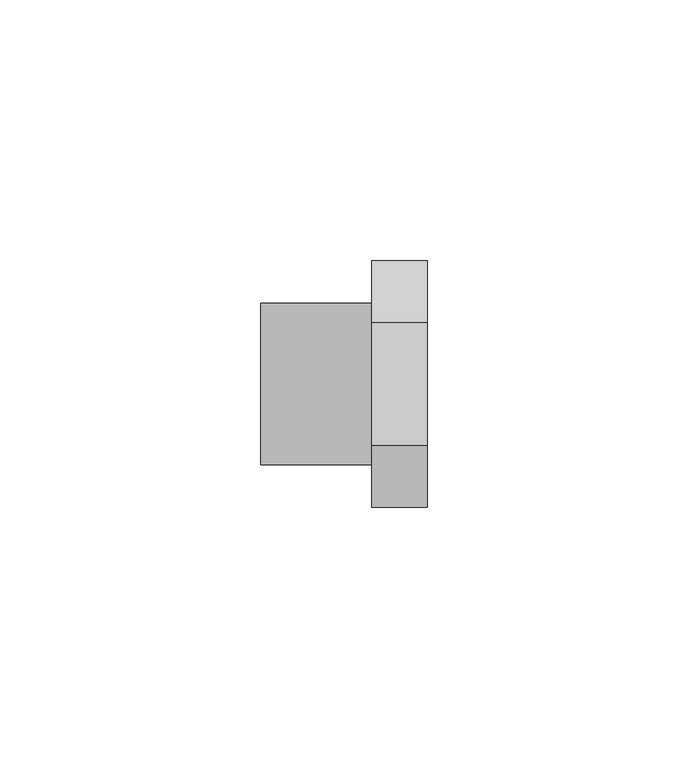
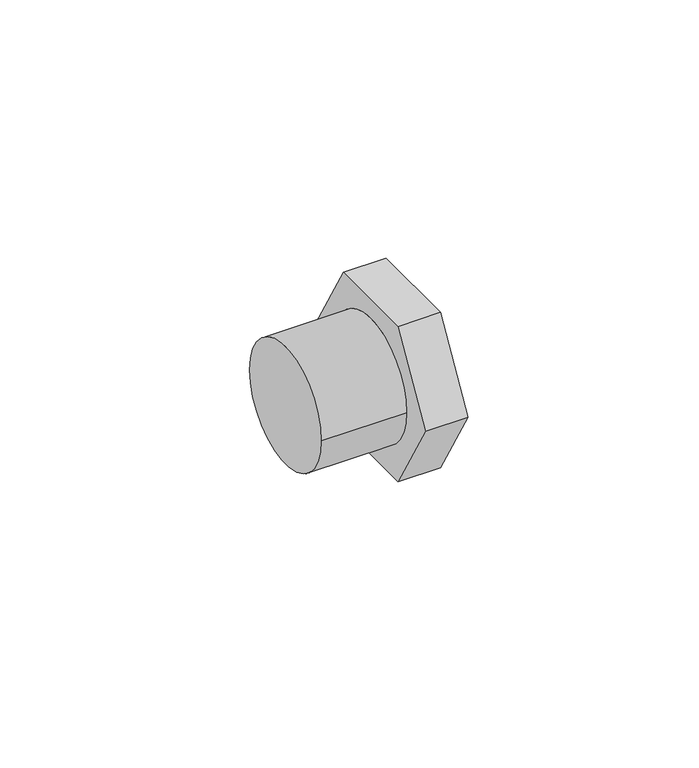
"""IFC4 building model written with IfcOpenShell, lengths in millimetres: pipe fitting geometry, 01011011 : Bouchons M."""

import ifcopenshell
import ifcopenshell.guid

model = None  # the IFC model being written
_history = None  # IfcOwnerHistory: only IFC2X3 demands one
_inside = {}  # id of a spatial element -> (the spatial element, [elements in it])
_under = {}  # id of a project, library or spatial element -> (it, [spatial elements below it])
_declared = {}  # id of a project -> (the project, [libraries it declares])
_typed = {}  # id of a type object -> (the type object, [elements of that type])
_made_of = {}  # id of a material, layer set ... -> (it, [elements and type objects made of it])


def new_model(schema):
    """Start an empty IFC model of exactly this schema.

    Asked for "IFC4X3", IfcOpenShell would pick the latest addendum, in which some entities
    have other attributes; the version numbers below select the first issue.
    IFC2X3 requires an IfcOwnerHistory on every rooted entity: one is made here for all.
    """
    global model, _history
    if schema == "IFC4X3":
        model = ifcopenshell.file(schema_version=(4, 3, 0, 0))
    else:
        model = ifcopenshell.file(schema=schema)
    _inside.clear()
    _under.clear()
    _declared.clear()
    _typed.clear()
    _made_of.clear()
    _history = None
    if model.schema == "IFC2X3":
        org = make("IfcOrganization", Name="unknown")
        user = make(
            "IfcPersonAndOrganization",
            ThePerson=make("IfcPerson", FamilyName="unknown"),
            TheOrganization=org,
        )
        app = make(
            "IfcApplication",
            ApplicationDeveloper=org,
            Version="unknown",
            ApplicationFullName="unknown",
            ApplicationIdentifier="unknown",
        )
        _history = make(
            "IfcOwnerHistory",
            OwningUser=user,
            OwningApplication=app,
            ChangeAction="ADDED",
            CreationDate=0,
        )
    return model


def make(cls, **values):
    """One entity of the class cls with the attributes given. An attribute that is None is left unset."""
    return model.create_entity(
        cls, **{name: value for name, value in values.items() if value is not None}
    )


def rooted(cls, **values):
    """An entity with a GlobalId (a new one), such as an element, a storey or a relation."""
    return make(cls, GlobalId=ifcopenshell.guid.new(), OwnerHistory=_history, **values)


def si_unit(unit_type, name, prefix=None):
    """IfcSIUnit, for example si_unit("LENGTHUNIT", "METRE", prefix="MILLI")."""
    return make("IfcSIUnit", UnitType=unit_type, Prefix=prefix, Name=name)


def assignment(units):
    """IfcUnitAssignment: the units of a project."""
    return None if units is None else make("IfcUnitAssignment", Units=units)


def point(xyz):
    """IfcCartesianPoint."""
    return None if xyz is None else make("IfcCartesianPoint", Coordinates=xyz)


def direction(xyz):
    """IfcDirection."""
    return None if xyz is None else make("IfcDirection", DirectionRatios=xyz)


def frame(location, z_axis=None, x_axis=None):
    """IfcAxis2Placement3D, a coordinate frame: its origin and axes. An axis left out is left unset."""
    return make(
        "IfcAxis2Placement3D",
        Location=point(location),
        Axis=direction(z_axis),
        RefDirection=direction(x_axis),
    )


def frame_2d(location, x_axis=None):
    """IfcAxis2Placement2D, a coordinate frame in the plane: its origin and x axis."""
    return make(
        "IfcAxis2Placement2D", Location=point(location), RefDirection=direction(x_axis)
    )


def origin():
    """The frame at (0, 0, 0) with its axes left unset."""
    return frame((0.0, 0.0, 0.0))


def origin_2d():
    """The frame at (0, 0) in the plane with its x axis left unset."""
    return frame_2d((0.0, 0.0))


def place(relative_to, where):
    """IfcLocalPlacement: puts the frame where relative to a parent placement (None: the world)."""
    return make(
        "IfcLocalPlacement", PlacementRelTo=relative_to, RelativePlacement=where
    )


def context(
    kind, dimensions, precision=None, world=None, true_north=None, identifier=None
):
    """IfcGeometricRepresentationContext, for example the 3D "Model" context."""
    return make(
        "IfcGeometricRepresentationContext",
        ContextIdentifier=identifier,
        ContextType=kind,
        CoordinateSpaceDimension=dimensions,
        Precision=precision,
        WorldCoordinateSystem=world,
        TrueNorth=true_north,
    )


def project(units=None, contexts=None):
    """IfcProject with its units and contexts."""
    return rooted(
        "IfcProject",
        Name="project",
        RepresentationContexts=contexts,
        UnitsInContext=assignment(units),
    )


def spatial(cls, under=None, at=None, **own):
    """A site, building, storey or space (cls), placed at a placement, below another one or the project."""
    s = rooted(cls, ObjectPlacement=at, **own)
    if under is not None:
        _under.setdefault(under.id(), (under, []))[1].append(s)
    return s


def circle_curve(where, radius):
    """IfcCircle in the frame where."""
    return make("IfcCircle", Position=where, Radius=radius)


def trimmed(basis, trim1, trim2, sense, master):
    """IfcTrimmedCurve: the piece of a basis curve between two trims."""
    return make(
        "IfcTrimmedCurve",
        BasisCurve=basis,
        Trim1=trim1,
        Trim2=trim2,
        SenseAgreement=sense,
        MasterRepresentation=master,
    )


def segment(curve, same_sense, transition):
    """IfcCompositeCurveSegment."""
    return make(
        "IfcCompositeCurveSegment",
        Transition=transition,
        SameSense=same_sense,
        ParentCurve=curve,
    )


def composite_curve(segments, self_intersect=None):
    """IfcCompositeCurve: segments joined end to end."""
    return make("IfcCompositeCurve", Segments=segments, SelfIntersect=self_intersect)


def outline(outer, holes=None, kind="AREA"):
    """IfcArbitraryClosedProfileDef: a profile drawn as a closed curve; with holes, ...WithVoids."""
    if holes is None:
        return make("IfcArbitraryClosedProfileDef", ProfileType=kind, OuterCurve=outer)
    return make(
        "IfcArbitraryProfileDefWithVoids",
        ProfileType=kind,
        OuterCurve=outer,
        InnerCurves=holes,
    )


def extrude(swept, where, along, depth):
    """IfcExtrudedAreaSolid: the profile swept, set in the frame where, extruded along a direction by depth."""
    return make(
        "IfcExtrudedAreaSolid",
        SweptArea=swept,
        Position=where,
        ExtrudedDirection=direction(along),
        Depth=depth,
    )


def shape(context_of_items, identifier, shape_type, items):
    """IfcShapeRepresentation: the items that make up one representation, for example the "Body"."""
    return make(
        "IfcShapeRepresentation",
        ContextOfItems=context_of_items,
        RepresentationIdentifier=identifier,
        RepresentationType=shape_type,
        Items=items,
    )


def source(mapping_origin, context_of_items, identifier, shape_type, items):
    """IfcRepresentationMap: a shape defined once, which mapped items show again and again."""
    return make(
        "IfcRepresentationMap",
        MappingOrigin=mapping_origin,
        MappedRepresentation=shape(context_of_items, identifier, shape_type, items),
    )


def transform(
    local_origin,
    x_axis=None,
    y_axis=None,
    z_axis=None,
    scale=None,
    scale2=None,
    scale3=None,
    uniform=True,
):
    """IfcCartesianTransformationOperator3D, or its non-uniform kind. x_axis, y_axis, z_axis: its Axis1, 2, 3."""
    if uniform:
        return make(
            "IfcCartesianTransformationOperator3D",
            Axis1=direction(x_axis),
            Axis2=direction(y_axis),
            LocalOrigin=point(local_origin),
            Scale=scale,
            Axis3=direction(z_axis),
        )
    return make(
        "IfcCartesianTransformationOperator3DnonUniform",
        Axis1=direction(x_axis),
        Axis2=direction(y_axis),
        LocalOrigin=point(local_origin),
        Scale=scale,
        Axis3=direction(z_axis),
        Scale2=scale2,
        Scale3=scale3,
    )


def mapped(mapping_source, mapping_target):
    """IfcMappedItem: shows the shape of a source again, moved by a transform."""
    return make(
        "IfcMappedItem", MappingSource=mapping_source, MappingTarget=mapping_target
    )


def made_of(thing, what):
    """Note that an element or type object is made of a material, layer set ...; save() writes the relation."""
    if what is not None:
        _made_of.setdefault(what.id(), (what, []))[1].append(thing)
    return thing


def element(
    cls,
    number,
    at=None,
    inside=None,
    cuts=None,
    type_object=None,
    material=None,
    context=None,
    identifier="Body",
    shape_type=None,
    held_by="IfcProductDefinitionShape",
    body=None,
    shapes=None,
    **own,
):
    """One element of the class cls, such as IfcWall. Its Tag is "e" and its number.

    at: its placement. inside: the storey or other place that contains it. cuts: it is an
    opening in that element (IfcRelVoidsElement). A single representation is given by context,
    identifier, shape_type and body (its items); several are given by shapes. held_by: the class
    of the entity that holds the representations. save() writes the other relations.
    """
    e = rooted(cls, Tag="e%d" % number, ObjectPlacement=at, **own)
    if body is not None:
        shapes = [shape(context, identifier, shape_type, body)]
    if shapes is not None:
        e.Representation = make(held_by, Representations=shapes)
    if inside is not None:
        _inside.setdefault(inside.id(), (inside, []))[1].append(e)
    if cuts is not None:
        rooted(
            "IfcRelVoidsElement", RelatingBuildingElement=cuts, RelatedOpeningElement=e
        )
    if type_object is not None:
        _typed.setdefault(type_object.id(), (type_object, []))[1].append(e)
    return made_of(e, material)


def aggregate(whole, parts):
    """IfcRelAggregates: a whole, such as a stair, and the parts it consists of."""
    return rooted("IfcRelAggregates", RelatingObject=whole, RelatedObjects=parts)


def save(model, path):
    """Write the relations noted so far, then the file.

    IfcRelAggregates (storeys below a building ...), IfcRelContainedInSpatialStructure (elements
    in a storey), IfcRelDefinesByType, IfcRelAssociatesMaterial and IfcRelDeclares: one each for
    every whole, place, type object, material and project.
    """
    for whole, parts in _under.values():
        aggregate(whole, parts)
    for where, things in _inside.values():
        rooted(
            "IfcRelContainedInSpatialStructure",
            RelatedElements=things,
            RelatingStructure=where,
        )
    for kind, things in _typed.values():
        rooted("IfcRelDefinesByType", RelatedObjects=things, RelatingType=kind)
    for what, things in _made_of.values():
        rooted("IfcRelAssociatesMaterial", RelatedObjects=things, RelatingMaterial=what)
    for by, libraries in _declared.values():
        rooted("IfcRelDeclares", RelatingContext=by, RelatedDefinitions=libraries)
    model.write(path)


def plane_surface(at):
    """IfcPlane: the flat surface through the origin of the frame at, square to its z axis."""
    return make("IfcPlane", Position=at)


def cylinder_surface(at, radius):
    """IfcCylindricalSurface: all points at the distance radius from the z axis of the frame at."""
    return make("IfcCylindricalSurface", Position=at, Radius=radius)


def advanced_brep(points, edges, surfaces, faces):
    """IfcAdvancedBrep: a solid bounded by faces that lie on surfaces and meet in shared edges.

    An edge is (start, end): straight between two places in points (the first is 0);
    or (start, end, curve); or (start, end, curve, False) where it runs against its curve.
    A face is (place in surfaces, loops), or (place, loops, False) where it looks against
    its surface's normal. A loop lists edges by number (the first is 1), with a minus sign
    where the edge is run from its end to its start. The first loop is the outer one.
    """
    corners = [point(p) for p in points]
    vertices = [make("IfcVertexPoint", VertexGeometry=c) for c in corners]
    made = []
    for start, end, *more in edges:
        made.append(
            make(
                "IfcEdgeCurve",
                EdgeStart=vertices[start],
                EdgeEnd=vertices[end],
                EdgeGeometry=more[0] if more else make("IfcPolyline", Points=[corners[start], corners[end]]),
                SameSense=more[1] if len(more) > 1 else True,
            )
        )
    hull = []
    for where, loops, *sense in faces:
        bounds = []
        for j, loop in enumerate(loops):
            ring = [make("IfcOrientedEdge", EdgeElement=made[abs(k) - 1], Orientation=k > 0) for k in loop]
            bounds.append(
                make(
                    "IfcFaceOuterBound" if j == 0 else "IfcFaceBound",
                    Bound=make("IfcEdgeLoop", EdgeList=ring),
                    Orientation=True,
                )
            )
        hull.append(make("IfcAdvancedFace", Bounds=bounds, FaceSurface=surfaces[where], SameSense=sense[0] if sense else True))
    return make("IfcAdvancedBrep", Outer=make("IfcClosedShell", CfsFaces=hull))


def pipe_fitting_8d009781(model_context):
    return source(origin(), model_context, "Body", "SolidModel", [
        extrude(outline(composite_curve([segment(trimmed(circle_curve(origin_2d(), 15.525), [point((-15.525, 0.0))], [point((15.525, 0.0))], False, "CARTESIAN"), True, "CONTINUOUS"), segment(trimmed(circle_curve(origin_2d(), 15.525), [point((15.525, 0.0))], [point((-15.525, 0.0))], False, "CARTESIAN"), True, "CONTINUOUS")], self_intersect=False)), frame((0.0, 0.0, 0.0), z_axis=(1.0, 0.0, 0.0), x_axis=(0.0, 1.0, 0.0)), (0.0, 0.0, 1.0), 21.3333333),
        advanced_brep(
        [(32.0, -11.8356805, 20.5), (32.0, -23.671361, 0.0), (32.0, -11.8356805, -20.5), (32.0, 11.8356805, -20.5), (32.0, 23.671361, 0.0), (32.0, 11.8356805, 20.5), (21.3333333, -11.8356805, 20.5), (21.3333333, 11.8356805, 20.5), (21.3333333, 23.671361, 0.0), (21.3333333, 11.8356805, -20.5), (21.3333333, -11.8356805, -20.5), (21.3333333, -23.671361, 0.0), (21.3333333, 15.525, 0.0), (21.3333333, -15.525, 0.0), (0.0, -15.525, 0.0), (0.0, 15.525, 0.0)],
        [
            (0, 1),
            (1, 2),
            (2, 3),
            (3, 4),
            (4, 5),
            (5, 0),
            (6, 7),
            (7, 8),
            (8, 9),
            (9, 10),
            (10, 11),
            (11, 6),
            (12, 13, circle_curve(frame((21.3333333, 0.0, 0.0), z_axis=(1.0, 0.0, 0.0), x_axis=(0.0, 1.0, 0.0)), 15.525)),
            (13, 12, circle_curve(frame((21.3333333, 0.0, 0.0), z_axis=(1.0, 0.0, 0.0), x_axis=(0.0, 1.0, 0.0)), 15.525)),
            (0, 6),
            (11, 1),
            (10, 2),
            (9, 3),
            (8, 4),
            (7, 5),
            (14, 15, circle_curve(frame((0.0, 0.0, 0.0), z_axis=(-1.0, 0.0, 0.0), x_axis=(0.0, 1.0, 0.0)), 15.525)),
            (15, 14, circle_curve(frame((0.0, 0.0, 0.0), z_axis=(-1.0, 0.0, 0.0), x_axis=(0.0, 1.0, 0.0)), 15.525)),
            (14, 13),
            (12, 15),
        ],
        [
            plane_surface(frame((32.0, -11.8356805, 20.5), z_axis=(1.0, 0.0, 0.0), x_axis=(0.0, -0.5000000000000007, -0.8660254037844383))),
            plane_surface(frame((21.3333333, -11.8356805, 20.5), z_axis=(-1.0, 0.0, 0.0), x_axis=(0.0, 0.5000000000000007, 0.8660254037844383))),
            plane_surface(frame((32.0, -11.8356805, 20.5), z_axis=(0.0, -0.8660254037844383, 0.5000000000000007), x_axis=(-1.0, 0.0, 0.0))),
            plane_surface(frame((32.0, -23.671361, 0.0), z_axis=(0.0, -0.8660254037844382, -0.500000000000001), x_axis=(-1.0, 0.0, 0.0))),
            plane_surface(frame((32.0, -11.8356805, -20.5), z_axis=(0.0, 0.0, -1.0), x_axis=(-1.0, 0.0, 0.0))),
            plane_surface(frame((32.0, 11.8356805, -20.5), z_axis=(0.0, 0.8660254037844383, -0.5000000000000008), x_axis=(-1.0, 0.0, 0.0))),
            plane_surface(frame((32.0, 23.671361, 0.0), z_axis=(0.0, 0.866025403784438, 0.500000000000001), x_axis=(-1.0, 0.0, 0.0))),
            plane_surface(frame((32.0, 11.8356805, 20.5), z_axis=(0.0, 0.0, 1.0), x_axis=(-1.0, 0.0, 0.0))),
            plane_surface(frame((0.0, 0.0, 0.0), z_axis=(-1.0, 0.0, 0.0), x_axis=(0.0, 0.0, 1.0))),
            cylinder_surface(frame((0.0, 0.0, 0.0), z_axis=(-1.0, 0.0, 0.0), x_axis=(0.0, 1.0, 0.0)), 15.525),
        ],
        [
            (0, [[1, 2, 3, 4, 5, 6]]),
            (1, [[7, 8, 9, 10, 11, 12], [13, 14]]),
            (2, [[-1, 15, -12, 16]]),
            (3, [[-2, -16, -11, 17]]),
            (4, [[-3, -17, -10, 18]]),
            (5, [[-4, -18, -9, 19]]),
            (6, [[-5, -19, -8, 20]]),
            (7, [[-6, -20, -7, -15]]),
            (8, [[21, 22]]),
            (9, [[-21, 23, -13, 24]]),
            (9, [[-22, -24, -14, -23]]),
        ],
    ),
    ])


if __name__ == "__main__":
    model = new_model("IFC4")
    model_context = context("Model", 3, world=origin())
    ifc_project = project(units=[si_unit("LENGTHUNIT", "METRE", prefix="MILLI")], contexts=[model_context])
    site = spatial("IfcSite", under=ifc_project)
    building = spatial("IfcBuilding", under=site)
    placement = place(None, origin())
    pipe_fitting_shape = pipe_fitting_8d009781(model_context)
    element("IfcPipeFitting", 1, ObjectType="01011011 : Bouchons M", at=placement, inside=building, context=model_context, shape_type="MappedRepresentation", body=[
        mapped(pipe_fitting_shape, transform((0.0, 0.0, 0.0), x_axis=(1.0, 0.0, 0.0), y_axis=(0.0, 1.0, 0.0), z_axis=(0.0, 0.0, 1.0))),
    ])
    save(model, "model.ifc")
